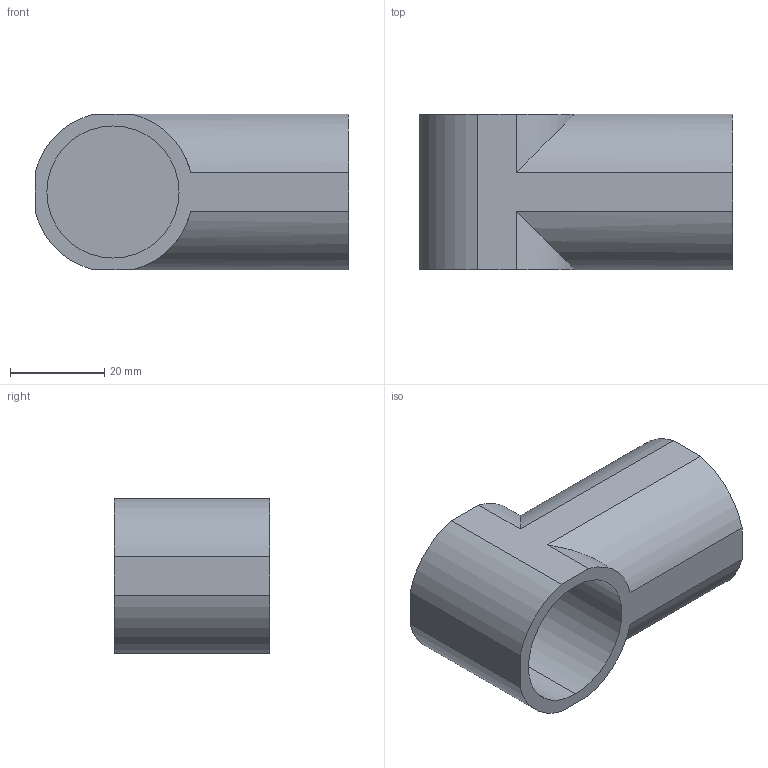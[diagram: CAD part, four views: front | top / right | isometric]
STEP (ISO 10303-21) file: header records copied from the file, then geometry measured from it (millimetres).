
FILE_DESCRIPTION (( 'STEP AP214' ), '1' );
FILE_NAME ('PJ-003.STEP', '2023-09-12T10:57:07', ( 'catia' ), ( 'HP Inc.' ), 'SwSTEP 2.0', 'SolidWorks 2021', '' );
FILE_SCHEMA (( 'AUTOMOTIVE_DESIGN' ));
Length unit declared in the file: millimetre
Products named in the file (1): PJ-003
Bounding box: 66.5 x 33 x 33 mm (x, y, z)
Volume: 24602 mm3; surface area: 14512.8 mm2
Topology: 1 solids, 1 shells, 22 faces, 54 edges, 36 vertices
Faces by surface type: cylinder 14, plane 8
Entity records: 692 total; most frequent: CARTESIAN_POINT 125, DIRECTION 116, ORIENTED_EDGE 108, EDGE_CURVE 54, AXIS2_PLACEMENT_3D 43, VERTEX_POINT 36, LINE 30, VECTOR 30
